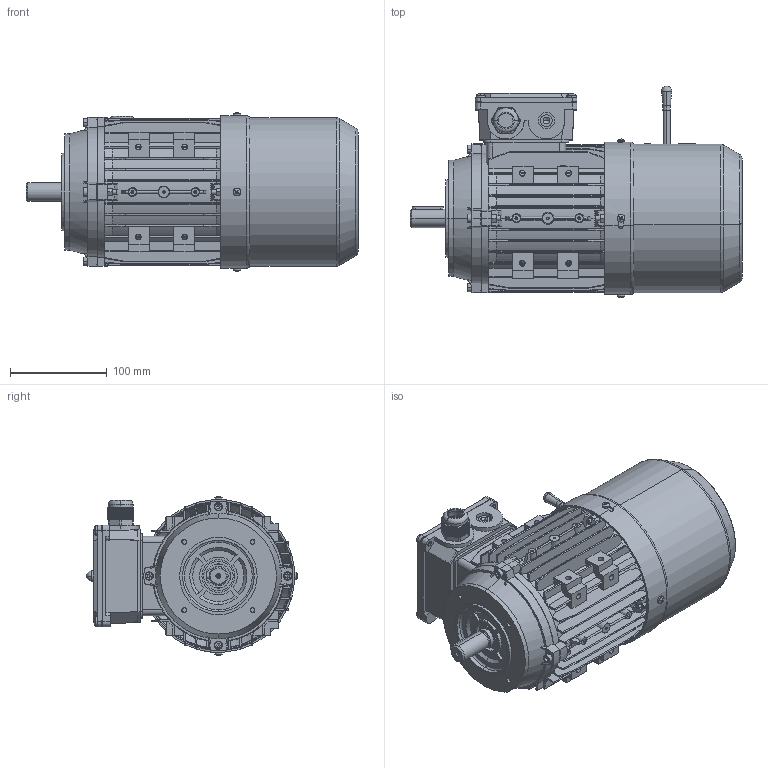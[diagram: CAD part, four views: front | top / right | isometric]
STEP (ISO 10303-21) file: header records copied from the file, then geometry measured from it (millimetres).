
FILE_DESCRIPTION (( 'STEP AP214' ), '1' );
FILE_NAME ('BCL0037.08B614.11.STEP', '2020-04-22T16:07:58', ( '' ), ( '' ), 'SwSTEP 2.0', 'SolidWorks 2019', '' );
FILE_SCHEMA (( 'AUTOMOTIVE_DESIGN' ));
Length unit declared in the file: millimetre
Products named in the file (1): BCL0037.08B614.11
Bounding box: 343.11 x 218.68 x 164.11 mm (x, y, z)
Volume: 1239065.9 mm3; surface area: 705055.8 mm2
Topology: 35 solids, 35 shells, 3464 faces, 9402 edges, 6067 vertices
Faces by surface type: plane 2098, cylinder 940, cone 279, torus 71, bspline 46, sphere 30
Entity records: 123780 total; most frequent: CARTESIAN_POINT 36333, ORIENTED_EDGE 18668, DIRECTION 17478, EDGE_CURVE 9334, VERTEX_POINT 6067, AXIS2_PLACEMENT_3D 5906, VECTOR 5666, LINE 5666
